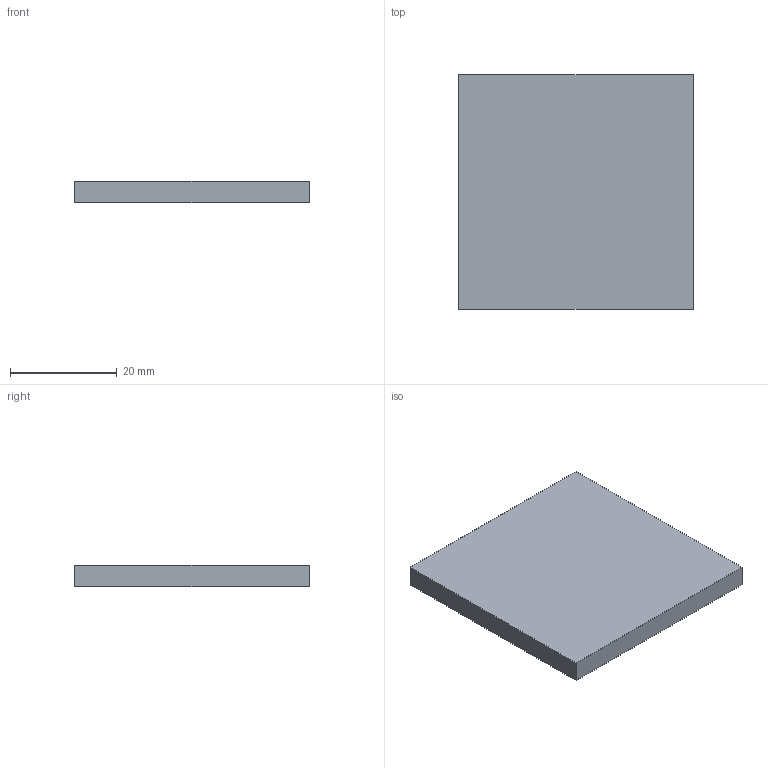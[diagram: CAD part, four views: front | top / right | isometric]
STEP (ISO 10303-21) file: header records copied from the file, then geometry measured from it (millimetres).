
FILE_DESCRIPTION(('Open CASCADE Model'),'2;1');
FILE_NAME('Open CASCADE Shape Model','2026-10-04T01:02:29',('Author'),( 'Open CASCADE'),'Open CASCADE STEP processor 8.0','Open CASCADE 8.0' ,'Unknown');
FILE_SCHEMA(('AUTOMOTIVE_DESIGN { 1 0 10303 214 1 1 1 1 }'));
Length unit declared in the file: millimetre
Products named in the file (1): Open CASCADE STEP translator 8.0 167
Bounding box: 44 x 44 x 4 mm (x, y, z)
Volume: 7744 mm3; surface area: 4576 mm2
Topology: 1 solids, 1 shells, 6 faces, 12 edges, 8 vertices
Faces by surface type: plane 6
Entity records: 322 total; most frequent: CARTESIAN_POINT 51, DIRECTION 50, LINE 36, VECTOR 36, ORIENTED_EDGE 24, PCURVE 24, DEFINITIONAL_REPRESENTATION 24, EDGE_CURVE 12
